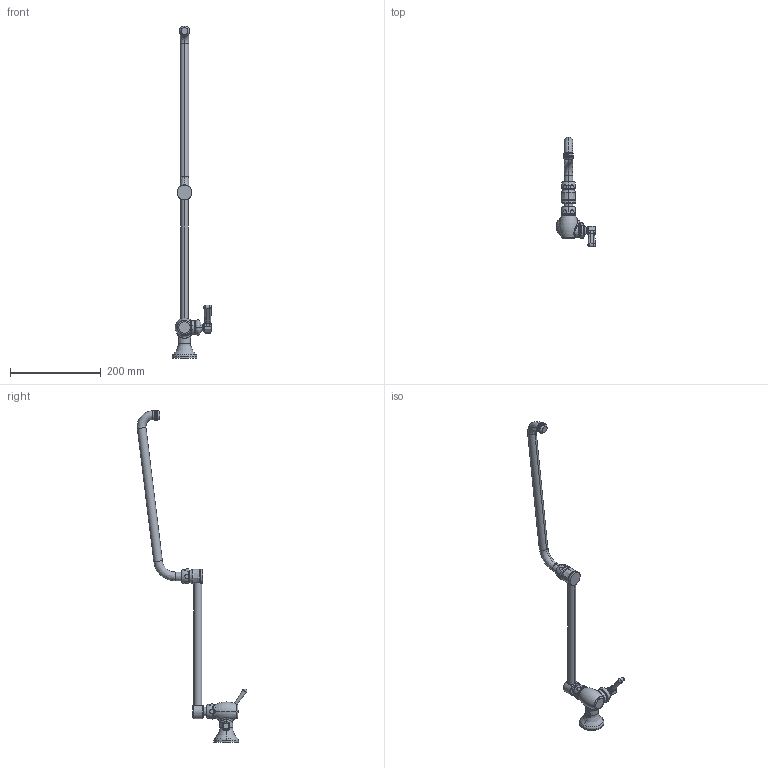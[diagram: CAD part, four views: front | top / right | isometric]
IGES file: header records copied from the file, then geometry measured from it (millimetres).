
Start section:  PTC IGES file: 332-dj26abcp_sw0001.igs
Global section: file name: 332-dj26abcp_sw0001.igs; native system: Creo Parametric by Parametric Technology Corporation; preprocessor: 2012230; author: jrodriguez; organization: Unknown; date: 20121113.114429; units: inch
Bounding box: 87.14 x 241.31 x 731.77 mm (x, y, z)
Surface area: 78957.2 mm2 (no closed solid volume)
Topology: 0 solids, 0 shells, 333 faces, 2023 edges, 2019 vertices
Faces by surface type: revolution 184, bspline 149
